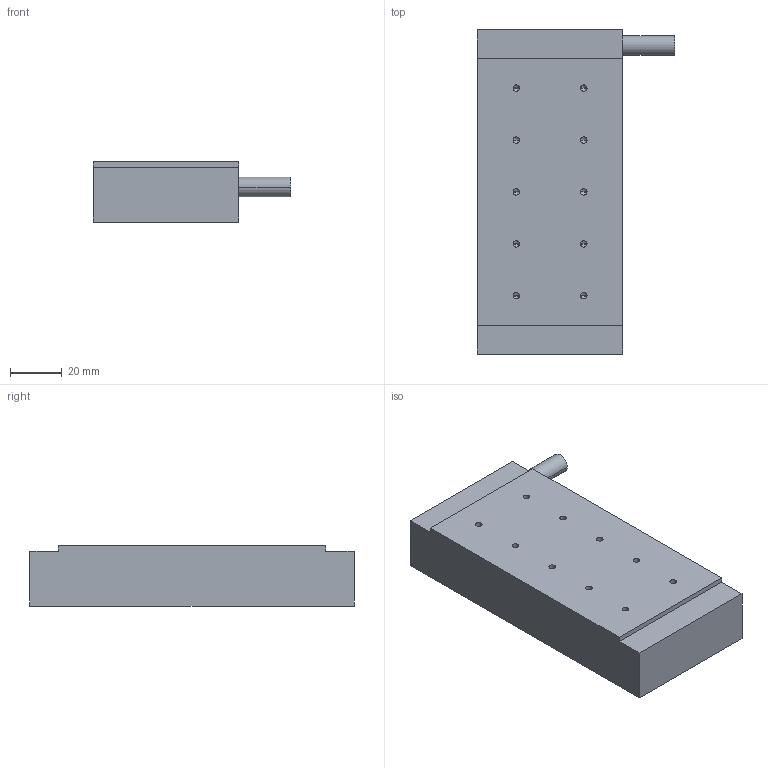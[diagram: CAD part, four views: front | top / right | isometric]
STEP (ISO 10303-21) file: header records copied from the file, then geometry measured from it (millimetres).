
FILE_DESCRIPTION (( 'STEP AP214' ), '1' );
FILE_NAME ('A-CJM100A-01.STEP', '2025-09-05T11:29:25', ( '' ), ( '' ), 'SwSTEP 2.0', 'SolidWorks 2016', '' );
FILE_SCHEMA (( 'AUTOMOTIVE_DESIGN' ));
Length unit declared in the file: millimetre
Products named in the file (1): A-CJM100A-01
Bounding box: 76 x 125 x 23.2 mm (x, y, z)
Volume: 160400.6 mm3; surface area: 23463.9 mm2
Topology: 1 solids, 1 shells, 77 faces, 186 edges, 98 vertices
Faces by surface type: cone 36, cylinder 30, plane 11
Entity records: 2322 total; most frequent: DIRECTION 382, CARTESIAN_POINT 334, ORIENTED_EDGE 316, EDGE_CURVE 158, AXIS2_PLACEMENT_3D 146, VERTEX_POINT 98, EDGE_LOOP 92, LINE 90
